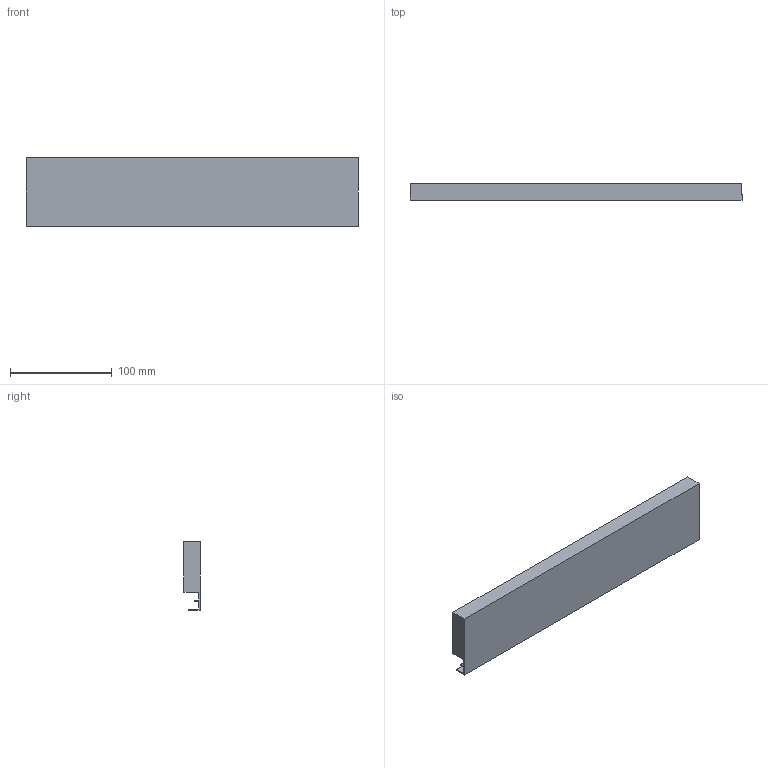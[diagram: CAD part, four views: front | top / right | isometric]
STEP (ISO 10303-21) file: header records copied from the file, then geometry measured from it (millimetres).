
FILE_DESCRIPTION (( 'STEP AP214' ), '1' );
FILE_NAME ('Innenschub-Blendenprofil_KAB450_S16.step', '2010-09-23T12:26:47', ( 'grass' ), ( '' ), 'SwSTEP 2.0', 'SolidWorks 2010', '' );
FILE_SCHEMA (( 'AUTOMOTIVE_DESIGN' ));
Length unit declared in the file: millimetre
Products named in the file (1): Innenschub-Blendenprofil_KAB450_S16
Bounding box: 327 x 15.9 x 67.6 mm (x, y, z)
Volume: 271110.7 mm3; surface area: 65850.4 mm2
Topology: 1 solids, 1 shells, 17 faces, 42 edges, 28 vertices
Faces by surface type: plane 15, cylinder 2
Entity records: 534 total; most frequent: CARTESIAN_POINT 88, ORIENTED_EDGE 84, DIRECTION 82, EDGE_CURVE 42, VECTOR 38, LINE 38, VERTEX_POINT 28, AXIS2_PLACEMENT_3D 22
